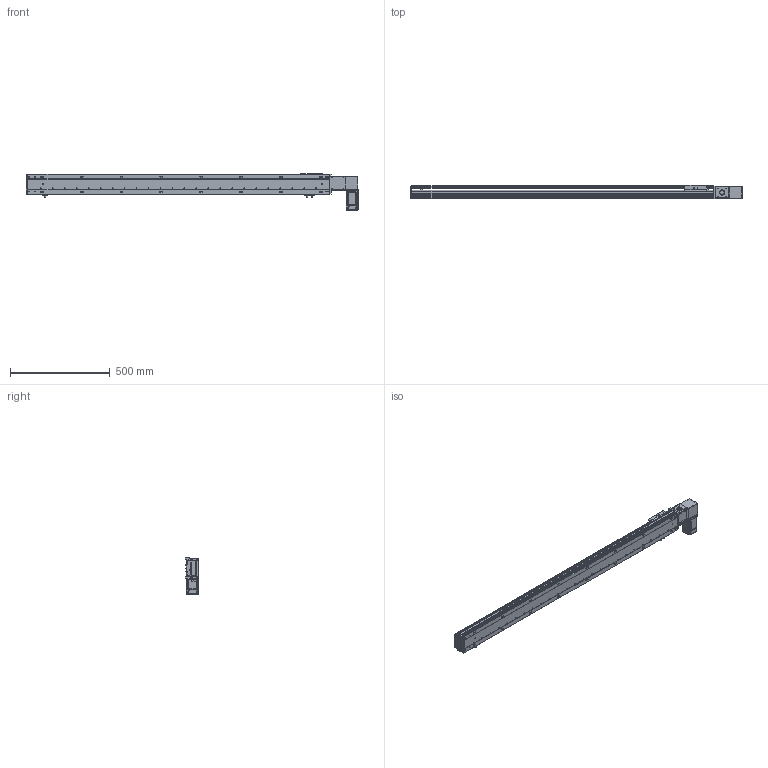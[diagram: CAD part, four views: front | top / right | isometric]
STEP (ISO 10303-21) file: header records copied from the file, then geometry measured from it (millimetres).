
FILE_DESCRIPTION (( 'STEP AP203' ), '1' );
FILE_NAME ('RY100-T-300-LK.SLDASM_1300.step', '2024-04-25T05:37:56', ( '盈信电脑' ), ( '东莞市道滘镇水果街19号' ), 'SwSTEP 2.0', 'SolidWorks 2016', '' );
FILE_SCHEMA (( 'CONFIG_CONTROL_DESIGN' ));
Length unit declared in the file: millimetre
Products named in the file (13): RY100-T左右折电机安装板; 覜茼ん672; RY100綴裔啣; RY80-T肮祭謫俋欶; 1; 滅袉蝶18-10; RY100-T翋肮祭謫裔啣2; RY100-T-300-LK.SLDASM_1300; RY100-T肮祭謫臏賑輸; RY100-T肮祭謫翋盓傅釱; RY100-T-300-RK倰第奻裔_1300; RY100俋离覜茼え; RY100-T-300-RK倰第菁釱_1300
Assembly tree (16 placements, depth 2):
  RY100-T-300-LK.SLDASM_1300
    RY100-T-300-RK倰第菁釱_1300
    RY100-T-300-RK倰第奻裔_1300
    RY100-T肮祭謫臏賑輸
    RY100綴裔啣
    覜茼ん672  x3
    RY100俋离覜茼え
    RY100-T肮祭謫翋盓傅釱
    滅袉蝶18-10  x2
    RY100-T翋肮祭謫裔啣2  x2
    RY80-T肮祭謫俋欶
    RY100-T左右折电机安装板
    1
Bounding box: 1664 x 66 x 182.5 mm (x, y, z)
Volume: 3092143.8 mm3; surface area: 1284864.8 mm2
Topology: 16 solids, 16 shells, 2182 faces, 6098 edges, 3964 vertices
Faces by surface type: plane 1178, cylinder 793, cone 133, bspline 78
Entity records: 69866 total; most frequent: CARTESIAN_POINT 17045, ORIENTED_EDGE 10932, DIRECTION 10366, EDGE_CURVE 5466, VERTEX_POINT 3600, LINE 3522, VECTOR 3522, AXIS2_PLACEMENT_3D 3422
